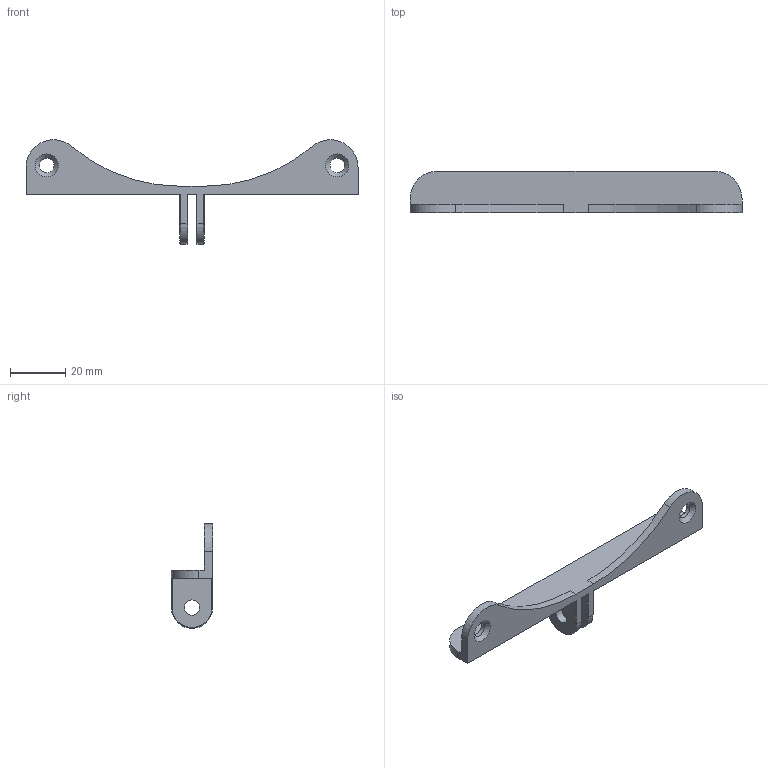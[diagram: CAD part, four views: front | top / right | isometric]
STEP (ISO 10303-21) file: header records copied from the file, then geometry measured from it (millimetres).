
FILE_DESCRIPTION(/* description */ (''),/* implementation_level */ '2;1');
FILE_NAME(/* name */ 'C:/CLOUD/OneDrive/PROJECTS/Mechanical/220711-ModularMountingSystem-tripod/FanMount120mm v4.step',/* time_stamp */ '2022-07-16T11:03:43+02:00',/* author */ (''),/* organization */ (''),/* preprocessor_version */ 'ST-DEVELOPER v19',/* originating_system */ 'Autodesk Translation Framework v11.7.0.108',/* authorisation */ '');
FILE_SCHEMA (('AUTOMOTIVE_DESIGN { 1 0 10303 214 3 1 1 }'));
Length unit declared in the file: millimetre
Products named in the file (1): FanMount120mm
Bounding box: 120 x 15 x 37.8 mm (x, y, z)
Volume: 8989.1 mm3; surface area: 7237.6 mm2
Topology: 1 solids, 1 shells, 40 faces, 104 edges, 66 vertices
Faces by surface type: plane 22, cylinder 12, cone 6
Full cylindrical faces by diameter (mm): 5.3 x2, 5.5 x2
Entity records: 1267 total; most frequent: DIRECTION 216, CARTESIAN_POINT 211, ORIENTED_EDGE 208, EDGE_CURVE 104, LINE 74, VECTOR 74, AXIS2_PLACEMENT_3D 71, VERTEX_POINT 66
